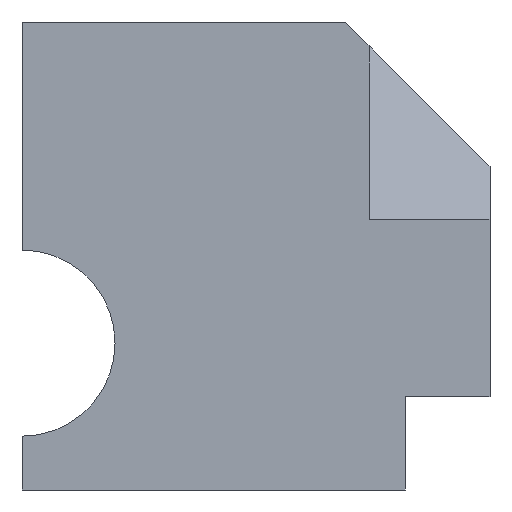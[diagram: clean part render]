
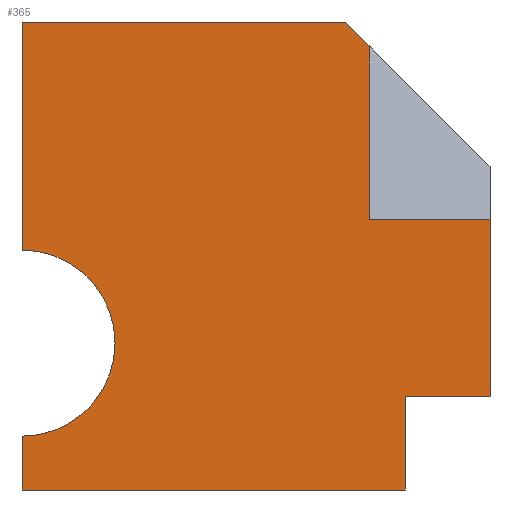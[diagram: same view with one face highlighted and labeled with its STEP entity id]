
A CAD part, front view. The second image highlights one B-rep face of the part: STEP entity #365.
In plain terms, the highlighted planar face has unit normal (0, -1, 0).
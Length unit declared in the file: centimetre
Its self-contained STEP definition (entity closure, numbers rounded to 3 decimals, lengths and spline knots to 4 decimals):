
#1 = LINE ( 'NONE', #392, #52 ) ;
#7 = EDGE_CURVE ( 'NONE', #161, #325, #287, .T. ) ;
#8 = LINE ( 'NONE', #274, #86 ) ;
#12 = FACE_OUTER_BOUND ( 'NONE', #58, .T. ) ;
#22 = ORIENTED_EDGE ( 'NONE', *, *, #90, .T. ) ;
#25 = ORIENTED_EDGE ( 'NONE', *, *, #147, .T. ) ;
#35 = LINE ( 'NONE', #194, #316 ) ;
#37 = CARTESIAN_POINT ( 'NONE',  ( 0., 0., 313.9003 ) ) ;
#40 = DIRECTION ( 'NONE',  ( 0., 0., -1. ) ) ;
#42 = LINE ( 'NONE', #355, #356 ) ;
#46 = CARTESIAN_POINT ( 'NONE',  ( 741.5302, 0., 578.4352 ) ) ;
#52 = VECTOR ( 'NONE', #314, 100. ) ;
#53 = ORIENTED_EDGE ( 'NONE', *, *, #409, .F. ) ;
#56 = ORIENTED_EDGE ( 'NONE', *, *, #411, .T. ) ;
#58 = EDGE_LOOP ( 'NONE', ( #453, #323, #241, #372, #422, #207, #141, #25, #22, #53, #56 ) ) ;
#63 = CARTESIAN_POINT ( 'NONE',  ( 0., 0., 512.7467 ) ) ;
#68 = DIRECTION ( 'NONE',  ( 1., 0., 0. ) ) ;
#71 = CARTESIAN_POINT ( 'NONE',  ( 0., 0., 1000. ) ) ;
#80 = CARTESIAN_POINT ( 'NONE',  ( 0., 0., 0. ) ) ;
#81 = DIRECTION ( 'NONE',  ( -0.707, 0., 0.707 ) ) ;
#84 = LINE ( 'NONE', #123, #445 ) ;
#86 = VECTOR ( 'NONE', #40, 100. ) ;
#90 = EDGE_CURVE ( 'NONE', #450, #303, #185, .T. ) ;
#99 = VERTEX_POINT ( 'NONE', #301 ) ;
#103 = VERTEX_POINT ( 'NONE', #63 ) ;
#114 = AXIS2_PLACEMENT_3D ( 'NONE', #37, #118, #272 ) ;
#118 = DIRECTION ( 'NONE',  ( 0., -1., 0. ) ) ;
#122 = LINE ( 'NONE', #278, #395 ) ;
#123 = CARTESIAN_POINT ( 'NONE',  ( 741.5302, 0., 578.4352 ) ) ;
#131 = VERTEX_POINT ( 'NONE', #423 ) ;
#135 = VECTOR ( 'NONE', #155, 100. ) ;
#141 = ORIENTED_EDGE ( 'NONE', *, *, #436, .F. ) ;
#147 = EDGE_CURVE ( 'NONE', #180, #450, #181, .T. ) ;
#149 = VECTOR ( 'NONE', #225, 100. ) ;
#155 = DIRECTION ( 'NONE',  ( 1., 0., 0. ) ) ;
#158 = DIRECTION ( 'NONE',  ( 1., 0., 0. ) ) ;
#161 = VERTEX_POINT ( 'NONE', #464 ) ;
#170 = EDGE_CURVE ( 'NONE', #131, #103, #122, .T. ) ;
#171 = DIRECTION ( 'NONE',  ( 0., 0., -1. ) ) ;
#180 = VERTEX_POINT ( 'NONE', #414 ) ;
#181 = LINE ( 'NONE', #71, #149 ) ;
#185 = LINE ( 'NONE', #261, #290 ) ;
#189 = CARTESIAN_POINT ( 'NONE',  ( 690.3124, 0., 1000. ) ) ;
#192 = EDGE_CURVE ( 'NONE', #209, #161, #84, .T. ) ;
#194 = CARTESIAN_POINT ( 'NONE',  ( 818.9067, 0., 199.6216 ) ) ;
#207 = ORIENTED_EDGE ( 'NONE', *, *, #170, .T. ) ;
#209 = VERTEX_POINT ( 'NONE', #46 ) ;
#225 = DIRECTION ( 'NONE',  ( 0., 0., -1. ) ) ;
#229 = CARTESIAN_POINT ( 'NONE',  ( 1000., 0., 199.6216 ) ) ;
#237 = CARTESIAN_POINT ( 'NONE',  ( 0., 0., 1000. ) ) ;
#241 = ORIENTED_EDGE ( 'NONE', *, *, #401, .F. ) ;
#261 = CARTESIAN_POINT ( 'NONE',  ( 0., 0., 0. ) ) ;
#264 = VERTEX_POINT ( 'NONE', #317 ) ;
#272 = DIRECTION ( 'NONE',  ( 0., 0., -1. ) ) ;
#274 = CARTESIAN_POINT ( 'NONE',  ( 741.5302, 0., 578.4352 ) ) ;
#278 = CARTESIAN_POINT ( 'NONE',  ( 0., 0., 1000. ) ) ;
#287 = LINE ( 'NONE', #444, #350 ) ;
#290 = VECTOR ( 'NONE', #68, 100. ) ;
#301 = CARTESIAN_POINT ( 'NONE',  ( 818.9067, 0., 199.6216 ) ) ;
#303 = VERTEX_POINT ( 'NONE', #435 ) ;
#307 = DIRECTION ( 'NONE',  ( 0., 0., 1. ) ) ;
#310 = DIRECTION ( 'NONE',  ( 0., 1., 0. ) ) ;
#314 = DIRECTION ( 'NONE',  ( 1., 0., 0. ) ) ;
#316 = VECTOR ( 'NONE', #430, 100. ) ;
#317 = CARTESIAN_POINT ( 'NONE',  ( 741.5302, 0., 948.7822 ) ) ;
#318 = EDGE_CURVE ( 'NONE', #131, #410, #1, .T. ) ;
#323 = ORIENTED_EDGE ( 'NONE', *, *, #192, .F. ) ;
#325 = VERTEX_POINT ( 'NONE', #229 ) ;
#330 = CIRCLE ( 'NONE', #114, 198.8464 ) ;
#347 = LINE ( 'NONE', #470, #135 ) ;
#350 = VECTOR ( 'NONE', #171, 100. ) ;
#355 = CARTESIAN_POINT ( 'NONE',  ( 690.3124, 0., 1000. ) ) ;
#356 = VECTOR ( 'NONE', #81, 100. ) ;
#357 = EDGE_CURVE ( 'NONE', #264, #410, #42, .T. ) ;
#365 = ADVANCED_FACE ( 'NONE', ( #12 ), #431, .F. ) ;
#372 = ORIENTED_EDGE ( 'NONE', *, *, #357, .T. ) ;
#392 = CARTESIAN_POINT ( 'NONE',  ( 0., 0., 1000. ) ) ;
#394 = DIRECTION ( 'NONE',  ( 0., 0., -1. ) ) ;
#395 = VECTOR ( 'NONE', #394, 100. ) ;
#401 = EDGE_CURVE ( 'NONE', #264, #209, #8, .T. ) ;
#403 = AXIS2_PLACEMENT_3D ( 'NONE', #237, #310, #307 ) ;
#409 = EDGE_CURVE ( 'NONE', #99, #303, #35, .T. ) ;
#410 = VERTEX_POINT ( 'NONE', #189 ) ;
#411 = EDGE_CURVE ( 'NONE', #99, #325, #347, .T. ) ;
#414 = CARTESIAN_POINT ( 'NONE',  ( 0., 0., 115.0539 ) ) ;
#422 = ORIENTED_EDGE ( 'NONE', *, *, #318, .F. ) ;
#423 = CARTESIAN_POINT ( 'NONE',  ( 0., 0., 1000. ) ) ;
#430 = DIRECTION ( 'NONE',  ( 0., 0., -1. ) ) ;
#431 = PLANE ( 'NONE',  #403 ) ;
#435 = CARTESIAN_POINT ( 'NONE',  ( 818.9067, 0., 0. ) ) ;
#436 = EDGE_CURVE ( 'NONE', #180, #103, #330, .T. ) ;
#444 = CARTESIAN_POINT ( 'NONE',  ( 1000., 0., 1000. ) ) ;
#445 = VECTOR ( 'NONE', #158, 100. ) ;
#450 = VERTEX_POINT ( 'NONE', #80 ) ;
#453 = ORIENTED_EDGE ( 'NONE', *, *, #7, .F. ) ;
#464 = CARTESIAN_POINT ( 'NONE',  ( 1000., 0., 578.4352 ) ) ;
#470 = CARTESIAN_POINT ( 'NONE',  ( 818.9067, 0., 199.6216 ) ) ;
